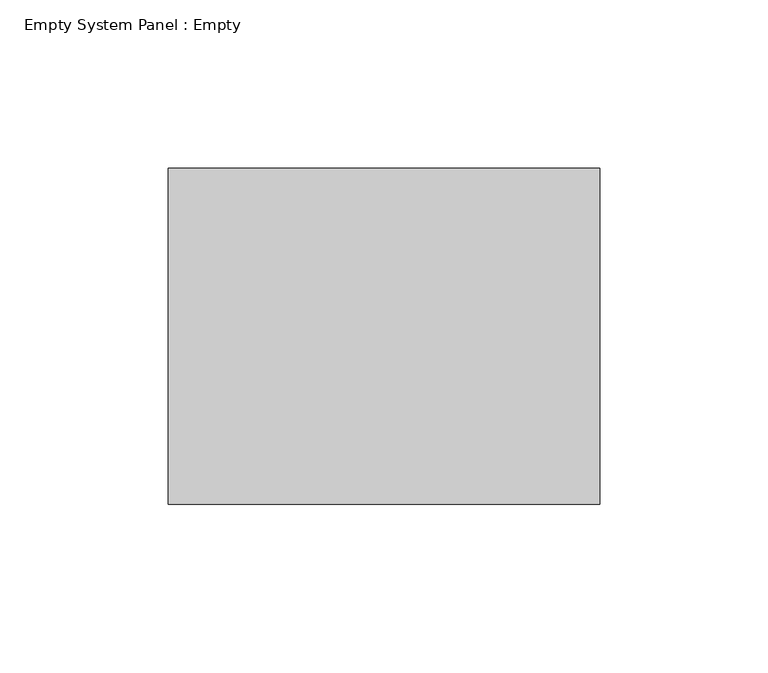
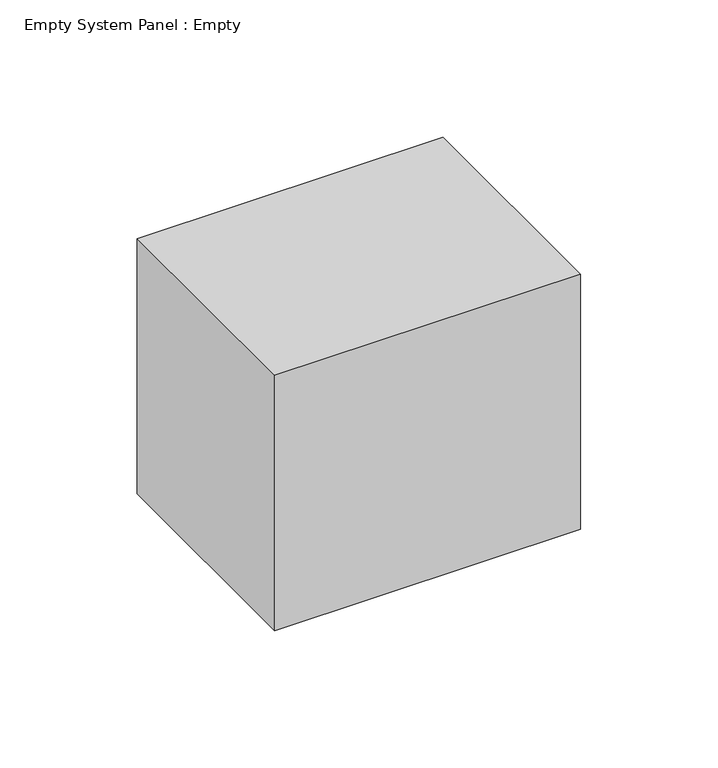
"""IFC4 building model written with IfcOpenShell, lengths in millimetres: plate geometry, Empty System Panel : Empty."""

from ifc_helpers import new_model, si_unit, origin, origin_with_axes, place, context, project, spatial, polyline, outline, extrude, source, transform, mapped, element, save


def empty_system_panel_empty_babc703c(model_context):
    return source(origin(), model_context, "Body", "SweptSolid", [
        extrude(outline(polyline([(64.187805, 50.0), (-64.187805, 50.0), (-64.187805, 150.0), (64.187805, 150.0), (64.187805, 50.0)])), origin_with_axes(), (0.0, 0.0, 1.0), 113.37561),
    ])


if __name__ == "__main__":
    model = new_model("IFC4")
    model_context = context("Model", 3, world=origin())
    ifc_project = project(units=[si_unit("LENGTHUNIT", "METRE", prefix="MILLI")], contexts=[model_context])
    site = spatial("IfcSite", under=ifc_project)
    building = spatial("IfcBuilding", under=site)
    placement = place(None, origin())
    empty_system_panel_empty_shape = empty_system_panel_empty_babc703c(model_context)
    element("IfcPlate", 1, ObjectType="Empty System Panel : Empty", at=placement, inside=building, context=model_context, shape_type="MappedRepresentation", body=[
        mapped(empty_system_panel_empty_shape, transform((0.0, 0.0, 0.0), x_axis=(1.0, 0.0, 0.0), y_axis=(0.0, 1.0, 0.0), z_axis=(0.0, 0.0, 1.0))),
    ])
    save(model, "model.ifc")
